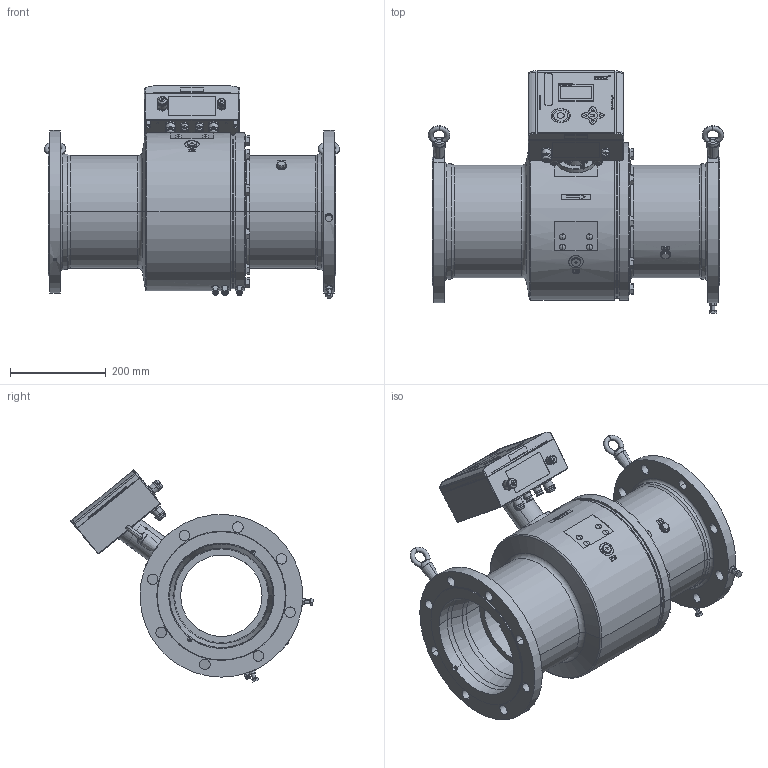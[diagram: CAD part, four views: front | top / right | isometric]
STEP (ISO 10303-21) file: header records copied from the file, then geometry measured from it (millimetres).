
FILE_DESCRIPTION((''),'2;1');
FILE_NAME('STANDARD_SW0001_10_LI','2023-09-11T08:29:07',('R85801'),(''),'CREO PARAMETRIC BY PTC INC, 2022281','CREO PARAMETRIC BY PTC INC, 2022281','');
FILE_SCHEMA(('AP242_MANAGED_MODEL_BASED_3D_ENGINEERING_MIM_LF { 1 0 10303 442 1 1 4 }'));
Products named in the file (2): STANDARD_SW0001_10_LI; 10038_S235JRG2
Bounding box: 616.97 x 506.32 x 443.06 mm (x, y, z)
Volume: 18393166.2 mm3; surface area: 1726021.7 mm2
Topology: 12 solids, 21 shells, 3819 faces, 9653 edges, 6157 vertices
Faces by surface type: plane 1878, extrusion 632, cylinder 619, cone 380, torus 246, sphere 40, bspline 24
Entity records: 183163 total; most frequent: CARTESIAN_POINT 30050, ORIENTED_EDGE 19194, DIRECTION 17309, PRESENTATION_STYLE_ASSIGNMENT 14029, STYLED_ITEM 10246, CURVE_STYLE 10233, EDGE_CURVE 9597, VECTOR 6459
